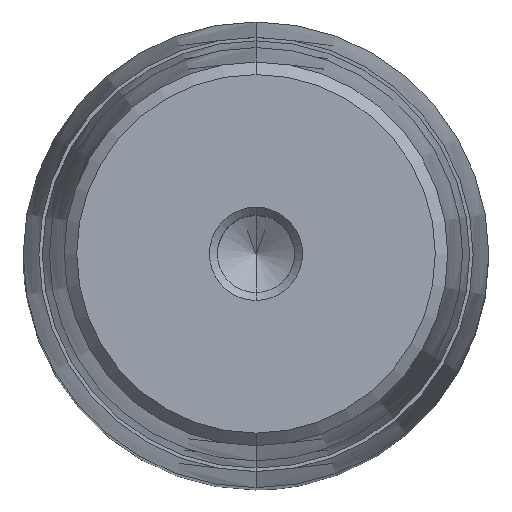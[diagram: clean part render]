
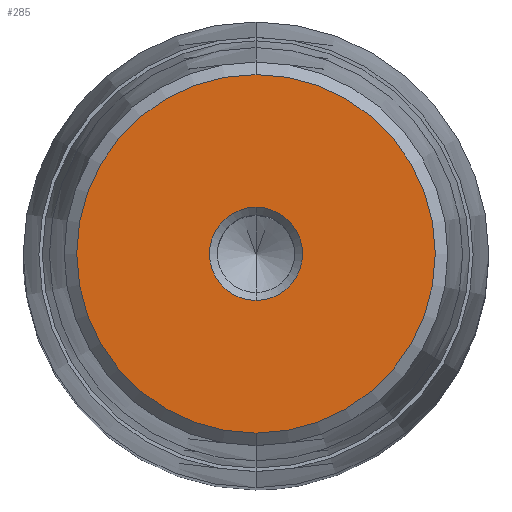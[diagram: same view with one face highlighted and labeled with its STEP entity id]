
A CAD part, top view. The second image highlights one B-rep face of the part: STEP entity #285.
In plain terms, the highlighted planar face has unit normal (0, 0, 1).
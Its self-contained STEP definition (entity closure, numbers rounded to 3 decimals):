
#164=CARTESIAN_POINT('Axis2P3D Location',(0.,0.,48.)) ;
#168=CARTESIAN_POINT('Vertex',(4.,0.,48.)) ;
#170=CARTESIAN_POINT('Vertex',(0.,-4.,48.)) ;
#173=CARTESIAN_POINT('Axis2P3D Location',(0.,0.,48.)) ;
#177=CARTESIAN_POINT('Vertex',(0.,4.,48.)) ;
#228=CARTESIAN_POINT('Axis2P3D Location',(0.,4.,48.)) ;
#233=CARTESIAN_POINT('Axis2P3D Location',(0.,0.,48.)) ;
#237=CARTESIAN_POINT('Vertex',(0.,15.4,48.)) ;
#239=CARTESIAN_POINT('Vertex',(15.4,0.,48.)) ;
#242=CARTESIAN_POINT('Axis2P3D Location',(0.,0.,48.)) ;
#246=CARTESIAN_POINT('Vertex',(-15.4,0.,48.)) ;
#249=CARTESIAN_POINT('Axis2P3D Location',(0.,0.,48.)) ;
#253=CARTESIAN_POINT('Vertex',(0.,-15.4,48.)) ;
#256=CARTESIAN_POINT('Axis2P3D Location',(0.,0.,48.)) ;
#267=CARTESIAN_POINT('Axis2P3D Location',(0.,0.,48.)) ;
#271=CARTESIAN_POINT('Vertex',(-4.,0.,48.)) ;
#274=CARTESIAN_POINT('Axis2P3D Location',(0.,0.,48.)) ;
#165=DIRECTION('Axis2P3D Direction',(-0.,0.,1.)) ;
#174=DIRECTION('Axis2P3D Direction',(-0.,0.,1.)) ;
#229=DIRECTION('Axis2P3D Direction',(0.,0.,-1.)) ;
#230=DIRECTION('Axis2P3D XDirection',(0.,1.,0.)) ;
#234=DIRECTION('Axis2P3D Direction',(0.,0.,-1.)) ;
#243=DIRECTION('Axis2P3D Direction',(0.,0.,-1.)) ;
#250=DIRECTION('Axis2P3D Direction',(0.,0.,-1.)) ;
#257=DIRECTION('Axis2P3D Direction',(0.,0.,-1.)) ;
#268=DIRECTION('Axis2P3D Direction',(0.,0.,-1.)) ;
#275=DIRECTION('Axis2P3D Direction',(0.,0.,-1.)) ;
#166=AXIS2_PLACEMENT_3D('Circle Axis2P3D',#164,#165,$) ;
#175=AXIS2_PLACEMENT_3D('Circle Axis2P3D',#173,#174,$) ;
#231=AXIS2_PLACEMENT_3D('Plane Axis2P3D',#228,#229,#230) ;
#235=AXIS2_PLACEMENT_3D('Circle Axis2P3D',#233,#234,$) ;
#244=AXIS2_PLACEMENT_3D('Circle Axis2P3D',#242,#243,$) ;
#251=AXIS2_PLACEMENT_3D('Circle Axis2P3D',#249,#250,$) ;
#258=AXIS2_PLACEMENT_3D('Circle Axis2P3D',#256,#257,$) ;
#269=AXIS2_PLACEMENT_3D('Circle Axis2P3D',#267,#268,$) ;
#276=AXIS2_PLACEMENT_3D('Circle Axis2P3D',#274,#275,$) ;
#262=ORIENTED_EDGE('',*,*,#241,.F.) ;
#263=ORIENTED_EDGE('',*,*,#248,.F.) ;
#264=ORIENTED_EDGE('',*,*,#255,.F.) ;
#265=ORIENTED_EDGE('',*,*,#260,.F.) ;
#280=ORIENTED_EDGE('',*,*,#172,.T.) ;
#281=ORIENTED_EDGE('',*,*,#273,.T.) ;
#282=ORIENTED_EDGE('',*,*,#278,.T.) ;
#283=ORIENTED_EDGE('',*,*,#179,.T.) ;
#284=FACE_BOUND('',#279,.T.) ;
#285=ADVANCED_FACE('722-40x140x173',(#266,#284),#232,.F.) ;
#167=CIRCLE('generated circle',#166,4.) ;
#176=CIRCLE('generated circle',#175,4.) ;
#236=CIRCLE('generated circle',#235,15.4) ;
#245=CIRCLE('generated circle',#244,15.4) ;
#252=CIRCLE('generated circle',#251,15.4) ;
#259=CIRCLE('generated circle',#258,15.4) ;
#270=CIRCLE('generated circle',#269,4.) ;
#277=CIRCLE('generated circle',#276,4.) ;
#172=EDGE_CURVE('',#169,#171,#167,.F.) ;
#179=EDGE_CURVE('',#178,#169,#176,.F.) ;
#241=EDGE_CURVE('',#238,#240,#236,.T.) ;
#248=EDGE_CURVE('',#247,#238,#245,.T.) ;
#255=EDGE_CURVE('',#254,#247,#252,.T.) ;
#260=EDGE_CURVE('',#240,#254,#259,.T.) ;
#273=EDGE_CURVE('',#171,#272,#270,.T.) ;
#278=EDGE_CURVE('',#272,#178,#277,.T.) ;
#261=EDGE_LOOP('',(#262,#263,#264,#265)) ;
#279=EDGE_LOOP('',(#280,#281,#282,#283)) ;
#266=FACE_OUTER_BOUND('',#261,.T.) ;
#232=PLANE('Plane',#231) ;
#169=VERTEX_POINT('',#168) ;
#171=VERTEX_POINT('',#170) ;
#178=VERTEX_POINT('',#177) ;
#238=VERTEX_POINT('',#237) ;
#240=VERTEX_POINT('',#239) ;
#247=VERTEX_POINT('',#246) ;
#254=VERTEX_POINT('',#253) ;
#272=VERTEX_POINT('',#271) ;
